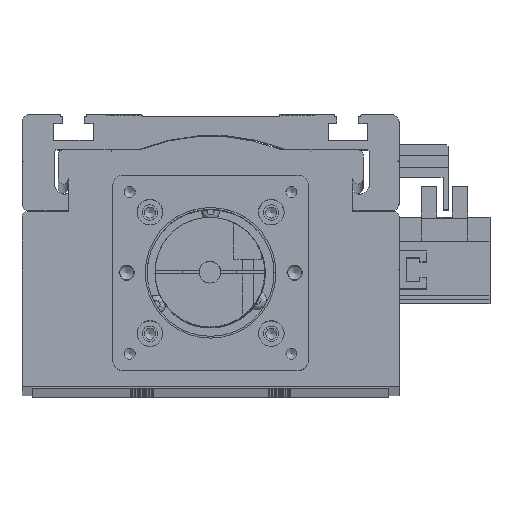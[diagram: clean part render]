
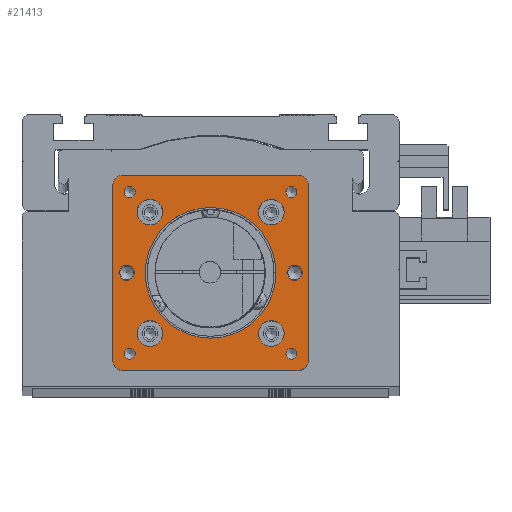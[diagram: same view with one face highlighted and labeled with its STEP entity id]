
A CAD part, top view. The second image highlights one B-rep face of the part: STEP entity #21413.
In plain terms, the highlighted planar face has unit normal (0, 0, 1).
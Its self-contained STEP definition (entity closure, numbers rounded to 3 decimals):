
#21177=CARTESIAN_POINT('',(54.0,57.0,0.0));
#21178=VERTEX_POINT('',#21177);
#21185=CARTESIAN_POINT('',(57.0,54.0,0.0));
#21186=VERTEX_POINT('',#21185);
#21187=CARTESIAN_POINT('',(54.0,54.0,0.0));
#21188=DIRECTION('',(0.0,0.0,-1.));
#21189=DIRECTION('',(0.707,0.707,0.0));
#21190=AXIS2_PLACEMENT_3D('',#21187,#21188,#21189);
#21191=CIRCLE('',#21190,3.);
#21192=EDGE_CURVE('',#21178,#21186,#21191,.T.);
#21209=CARTESIAN_POINT('',(57.0,3.,0.0));
#21210=VERTEX_POINT('',#21209);
#21211=CARTESIAN_POINT('',(57.0,3.,0.0));
#21212=DIRECTION('',(0.0,1.0,0.0));
#21213=VECTOR('',#21212,51.0);
#21214=LINE('',#21211,#21213);
#21215=EDGE_CURVE('',#21210,#21186,#21214,.T.);
#21234=CARTESIAN_POINT('',(28.5,28.5,0.0));
#21235=DIRECTION('',(0.0,0.0,1.0));
#21236=DIRECTION('',(1.0,0.0,0.0));
#21237=AXIS2_PLACEMENT_3D('',#21234,#21235,#21236);
#21238=PLANE('',#21237);
#21239=ORIENTED_EDGE('',*,*,#21192,.F.);
#21240=CARTESIAN_POINT('',(3.,57.0,0.0));
#21241=VERTEX_POINT('',#21240);
#21242=CARTESIAN_POINT('',(54.0,57.0,0.0));
#21243=DIRECTION('',(-1.0,0.0,0.0));
#21244=VECTOR('',#21243,51.0);
#21245=LINE('',#21242,#21244);
#21246=EDGE_CURVE('',#21178,#21241,#21245,.T.);
#21247=ORIENTED_EDGE('',*,*,#21246,.T.);
#21248=CARTESIAN_POINT('',(0.0,54.0,0.0));
#21249=VERTEX_POINT('',#21248);
#21250=CARTESIAN_POINT('',(3.,54.0,0.0));
#21251=DIRECTION('',(0.0,0.0,-1.0));
#21252=DIRECTION('',(-0.707,0.707,0.0));
#21253=AXIS2_PLACEMENT_3D('',#21250,#21251,#21252);
#21254=CIRCLE('',#21253,3.0);
#21255=EDGE_CURVE('',#21249,#21241,#21254,.T.);
#21256=ORIENTED_EDGE('',*,*,#21255,.F.);
#21257=CARTESIAN_POINT('',(0.0,3.,0.0));
#21258=VERTEX_POINT('',#21257);
#21259=CARTESIAN_POINT('',(0.0,54.0,0.0));
#21260=DIRECTION('',(0.0,-1.0,0.0));
#21261=VECTOR('',#21260,51.0);
#21262=LINE('',#21259,#21261);
#21263=EDGE_CURVE('',#21249,#21258,#21262,.T.);
#21264=ORIENTED_EDGE('',*,*,#21263,.T.);
#21265=CARTESIAN_POINT('',(3.,0.0,0.0));
#21266=VERTEX_POINT('',#21265);
#21267=CARTESIAN_POINT('',(3.,3.,0.0));
#21268=DIRECTION('',(0.0,0.0,-1.));
#21269=DIRECTION('',(-0.707,-0.707,0.0));
#21270=AXIS2_PLACEMENT_3D('',#21267,#21268,#21269);
#21271=CIRCLE('',#21270,3.);
#21272=EDGE_CURVE('',#21266,#21258,#21271,.T.);
#21273=ORIENTED_EDGE('',*,*,#21272,.F.);
#21274=CARTESIAN_POINT('',(54.0,0.0,0.0));
#21275=VERTEX_POINT('',#21274);
#21276=CARTESIAN_POINT('',(3.,0.0,0.0));
#21277=DIRECTION('',(1.0,0.0,0.0));
#21278=VECTOR('',#21277,51.0);
#21279=LINE('',#21276,#21278);
#21280=EDGE_CURVE('',#21266,#21275,#21279,.T.);
#21281=ORIENTED_EDGE('',*,*,#21280,.T.);
#21282=CARTESIAN_POINT('',(54.0,3.,0.0));
#21283=DIRECTION('',(0.0,0.0,-1.));
#21284=DIRECTION('',(0.707,-0.707,0.0));
#21285=AXIS2_PLACEMENT_3D('',#21282,#21283,#21284);
#21286=CIRCLE('',#21285,3.);
#21287=EDGE_CURVE('',#21210,#21275,#21286,.T.);
#21288=ORIENTED_EDGE('',*,*,#21287,.F.);
#21289=ORIENTED_EDGE('',*,*,#21215,.T.);
#21290=EDGE_LOOP('',(#21239,#21247,#21256,#21264,#21273,#21281,#21288,#21289));
#21291=FACE_OUTER_BOUND('',#21290,.T.);
#21292=CARTESIAN_POINT('',(6.25,28.5,0.0));
#21293=VERTEX_POINT('',#21292);
#21294=CARTESIAN_POINT('',(4.,28.5,0.0));
#21295=DIRECTION('',(0.0,0.0,-1.0));
#21296=DIRECTION('',(1.0,0.0,0.0));
#21297=AXIS2_PLACEMENT_3D('',#21294,#21295,#21296);
#21298=CIRCLE('',#21297,2.25);
#21299=EDGE_CURVE('',#21293,#21293,#21298,.T.);
#21300=ORIENTED_EDGE('',*,*,#21299,.T.);
#21301=EDGE_LOOP('',(#21300));
#21302=FACE_BOUND('',#21301,.T.);
#21303=CARTESIAN_POINT('',(55.25,28.5,0.0));
#21304=VERTEX_POINT('',#21303);
#21305=CARTESIAN_POINT('',(53.,28.5,0.0));
#21306=DIRECTION('',(0.0,0.0,-1.0));
#21307=DIRECTION('',(1.0,0.0,0.0));
#21308=AXIS2_PLACEMENT_3D('',#21305,#21306,#21307);
#21309=CIRCLE('',#21308,2.25);
#21310=EDGE_CURVE('',#21304,#21304,#21309,.T.);
#21311=ORIENTED_EDGE('',*,*,#21310,.T.);
#21312=EDGE_LOOP('',(#21311));
#21313=FACE_BOUND('',#21312,.T.);
#21314=CARTESIAN_POINT('',(6.546,4.925,0.0));
#21315=VERTEX_POINT('',#21314);
#21316=CARTESIAN_POINT('',(4.925,4.925,0.0));
#21317=DIRECTION('',(0.0,0.0,-1.0));
#21318=DIRECTION('',(1.0,0.0,0.0));
#21319=AXIS2_PLACEMENT_3D('',#21316,#21317,#21318);
#21320=CIRCLE('',#21319,1.621);
#21321=EDGE_CURVE('',#21315,#21315,#21320,.T.);
#21322=ORIENTED_EDGE('',*,*,#21321,.T.);
#21323=EDGE_LOOP('',(#21322));
#21324=FACE_BOUND('',#21323,.T.);
#21325=CARTESIAN_POINT('',(53.696,52.075,0.0));
#21326=VERTEX_POINT('',#21325);
#21327=CARTESIAN_POINT('',(52.075,52.075,0.0));
#21328=DIRECTION('',(0.0,0.0,-1.0));
#21329=DIRECTION('',(1.0,0.0,0.0));
#21330=AXIS2_PLACEMENT_3D('',#21327,#21328,#21329);
#21331=CIRCLE('',#21330,1.621);
#21332=EDGE_CURVE('',#21326,#21326,#21331,.T.);
#21333=ORIENTED_EDGE('',*,*,#21332,.T.);
#21334=EDGE_LOOP('',(#21333));
#21335=FACE_BOUND('',#21334,.T.);
#21336=CARTESIAN_POINT('',(6.546,52.075,0.0));
#21337=VERTEX_POINT('',#21336);
#21338=CARTESIAN_POINT('',(4.925,52.075,0.0));
#21339=DIRECTION('',(0.0,0.0,-1.0));
#21340=DIRECTION('',(1.0,0.0,0.0));
#21341=AXIS2_PLACEMENT_3D('',#21338,#21339,#21340);
#21342=CIRCLE('',#21341,1.621);
#21343=EDGE_CURVE('',#21337,#21337,#21342,.T.);
#21344=ORIENTED_EDGE('',*,*,#21343,.T.);
#21345=EDGE_LOOP('',(#21344));
#21346=FACE_BOUND('',#21345,.T.);
#21347=CARTESIAN_POINT('',(53.696,4.925,0.0));
#21348=VERTEX_POINT('',#21347);
#21349=CARTESIAN_POINT('',(52.075,4.925,0.0));
#21350=DIRECTION('',(0.0,0.0,-1.0));
#21351=DIRECTION('',(1.0,0.0,0.0));
#21352=AXIS2_PLACEMENT_3D('',#21349,#21350,#21351);
#21353=CIRCLE('',#21352,1.621);
#21354=EDGE_CURVE('',#21348,#21348,#21353,.T.);
#21355=ORIENTED_EDGE('',*,*,#21354,.T.);
#21356=EDGE_LOOP('',(#21355));
#21357=FACE_BOUND('',#21356,.T.);
#21358=CARTESIAN_POINT('',(49.95,10.8,0.0));
#21359=VERTEX_POINT('',#21358);
#21360=CARTESIAN_POINT('',(46.2,10.8,0.0));
#21361=DIRECTION('',(0.0,0.0,-1.0));
#21362=DIRECTION('',(1.0,0.0,0.0));
#21363=AXIS2_PLACEMENT_3D('',#21360,#21361,#21362);
#21364=CIRCLE('',#21363,3.75);
#21365=EDGE_CURVE('',#21359,#21359,#21364,.T.);
#21366=ORIENTED_EDGE('',*,*,#21365,.T.);
#21367=EDGE_LOOP('',(#21366));
#21368=FACE_BOUND('',#21367,.T.);
#21369=CARTESIAN_POINT('',(14.55,46.2,0.0));
#21370=VERTEX_POINT('',#21369);
#21371=CARTESIAN_POINT('',(10.8,46.2,0.0));
#21372=DIRECTION('',(0.0,0.0,-1.0));
#21373=DIRECTION('',(1.0,0.0,0.0));
#21374=AXIS2_PLACEMENT_3D('',#21371,#21372,#21373);
#21375=CIRCLE('',#21374,3.75);
#21376=EDGE_CURVE('',#21370,#21370,#21375,.T.);
#21377=ORIENTED_EDGE('',*,*,#21376,.T.);
#21378=EDGE_LOOP('',(#21377));
#21379=FACE_BOUND('',#21378,.T.);
#21380=CARTESIAN_POINT('',(49.95,46.2,0.0));
#21381=VERTEX_POINT('',#21380);
#21382=CARTESIAN_POINT('',(46.2,46.2,0.0));
#21383=DIRECTION('',(0.0,0.0,-1.0));
#21384=DIRECTION('',(1.0,0.0,0.0));
#21385=AXIS2_PLACEMENT_3D('',#21382,#21383,#21384);
#21386=CIRCLE('',#21385,3.75);
#21387=EDGE_CURVE('',#21381,#21381,#21386,.T.);
#21388=ORIENTED_EDGE('',*,*,#21387,.T.);
#21389=EDGE_LOOP('',(#21388));
#21390=FACE_BOUND('',#21389,.T.);
#21391=CARTESIAN_POINT('',(14.55,10.8,0.0));
#21392=VERTEX_POINT('',#21391);
#21393=CARTESIAN_POINT('',(10.8,10.8,0.0));
#21394=DIRECTION('',(0.0,0.0,-1.0));
#21395=DIRECTION('',(1.0,0.0,0.0));
#21396=AXIS2_PLACEMENT_3D('',#21393,#21394,#21395);
#21397=CIRCLE('',#21396,3.75);
#21398=EDGE_CURVE('',#21392,#21392,#21397,.T.);
#21399=ORIENTED_EDGE('',*,*,#21398,.T.);
#21400=EDGE_LOOP('',(#21399));
#21401=FACE_BOUND('',#21400,.T.);
#21402=CARTESIAN_POINT('',(47.55,28.5,0.0));
#21403=VERTEX_POINT('',#21402);
#21404=CARTESIAN_POINT('',(28.5,28.5,0.0));
#21405=DIRECTION('',(0.0,0.0,-1.0));
#21406=DIRECTION('',(-1.0,0.0,0.0));
#21407=AXIS2_PLACEMENT_3D('',#21404,#21405,#21406);
#21408=CIRCLE('',#21407,19.05);
#21409=EDGE_CURVE('',#21403,#21403,#21408,.T.);
#21410=ORIENTED_EDGE('',*,*,#21409,.T.);
#21411=EDGE_LOOP('',(#21410));
#21412=FACE_BOUND('',#21411,.T.);
#21413=ADVANCED_FACE('',(#21291,#21302,#21313,#21324,#21335,#21346,#21357,#21368,#21379,#21390,#21401,#21412),#21238,.T.);
